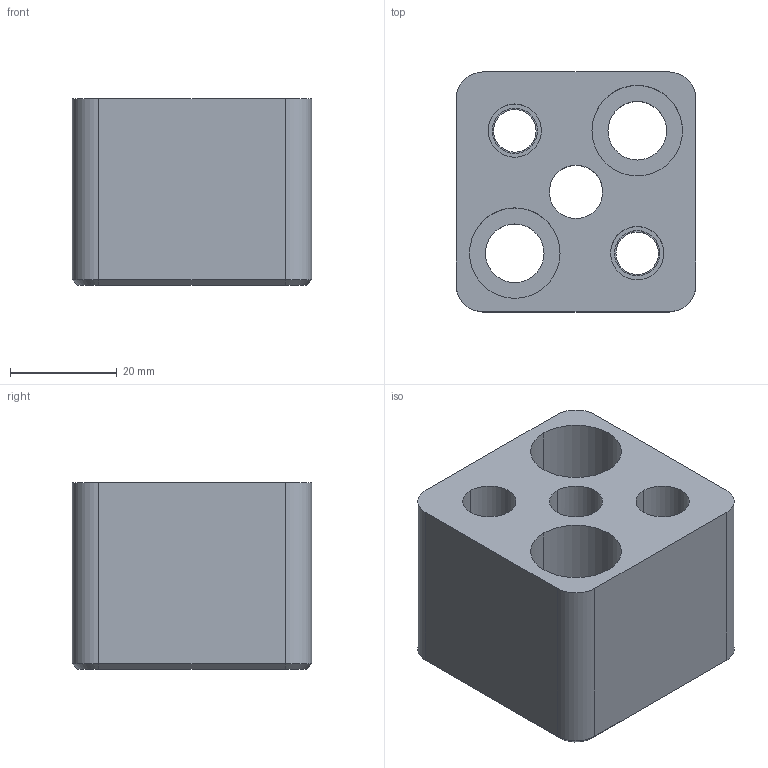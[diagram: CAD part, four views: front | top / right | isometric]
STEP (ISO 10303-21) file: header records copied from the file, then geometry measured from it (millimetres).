
FILE_DESCRIPTION(/* description */ (''),/* implementation_level */ '2;1');
FILE_NAME(/* name */ '3d_hsa-fn10_04184_r00.stp',/* time_stamp */ '2011-01-10T14:14:36+09:00',/* author */ ('MISUMI'),/* organization */ (''),/* preprocessor_version */ 'ST-DEVELOPER v11',/* originating_system */ 'UGS - NX 5.0',/* authorisation */ '');
FILE_SCHEMA (('CONFIG_CONTROL_DESIGN'));
Length unit declared in the file: millimetre
Products named in the file (1): 3d_hsa-fn10_04184_r00
Bounding box: 45 x 45 x 35 mm (x, y, z)
Volume: 50688 mm3; surface area: 15459.2 mm2
Topology: 1 solids, 1 shells, 55 faces, 132 edges, 85 vertices
Faces by surface type: cylinder 29, plane 20, cone 6
Entity records: 1733 total; most frequent: DIRECTION 303, CARTESIAN_POINT 293, ORIENTED_EDGE 264, EDGE_CURVE 132, AXIS2_PLACEMENT_3D 121, VERTEX_POINT 85, EDGE_LOOP 71, CIRCLE 65
